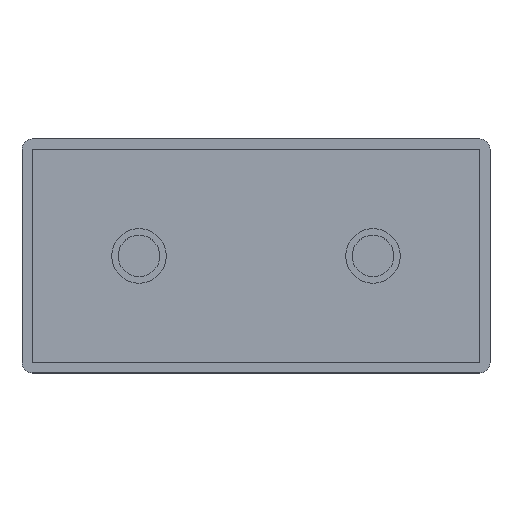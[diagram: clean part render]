
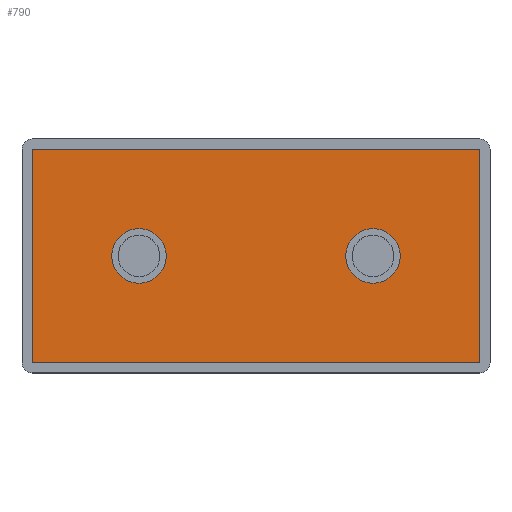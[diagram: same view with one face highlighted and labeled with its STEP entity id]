
A CAD part, top view. The second image highlights one B-rep face of the part: STEP entity #790.
In plain terms, the highlighted planar face has unit normal (0, 0, 1).
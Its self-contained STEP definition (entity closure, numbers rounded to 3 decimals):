
#6 = EDGE_CURVE ( 'NONE', #513, #405, #50, .T. ) ;
#7 = CARTESIAN_POINT ( 'NONE',  ( 43., 0., -0.15 ) ) ;
#11 = EDGE_LOOP ( 'NONE', ( #248, #797 ) ) ;
#14 = CARTESIAN_POINT ( 'NONE',  ( -17.25, 0., -0.15 ) ) ;
#29 = CARTESIAN_POINT ( 'NONE',  ( -22.5, 0., -0.15 ) ) ;
#31 = CARTESIAN_POINT ( 'NONE',  ( -43., 20.5, -0.15 ) ) ;
#40 = EDGE_LOOP ( 'NONE', ( #67, #282, #222, #254 ) ) ;
#50 = LINE ( 'NONE', #957, #145 ) ;
#60 = DIRECTION ( 'NONE',  ( 0., 0., 1. ) ) ;
#67 = ORIENTED_EDGE ( 'NONE', *, *, #103, .T. ) ;
#72 = CARTESIAN_POINT ( 'NONE',  ( -43., -20.5, -0.15 ) ) ;
#74 = VERTEX_POINT ( 'NONE', #72 ) ;
#88 = CARTESIAN_POINT ( 'NONE',  ( -22.5, 0., -0.15 ) ) ;
#102 = LINE ( 'NONE', #7, #262 ) ;
#103 = EDGE_CURVE ( 'NONE', #74, #173, #936, .T. ) ;
#115 = VERTEX_POINT ( 'NONE', #516 ) ;
#145 = VECTOR ( 'NONE', #852, 1000. ) ;
#153 = EDGE_CURVE ( 'NONE', #405, #173, #102, .T. ) ;
#158 = CARTESIAN_POINT ( 'NONE',  ( 22.5, 0., -0.15 ) ) ;
#173 = VERTEX_POINT ( 'NONE', #358 ) ;
#190 = AXIS2_PLACEMENT_3D ( 'NONE', #88, #997, #901 ) ;
#222 = ORIENTED_EDGE ( 'NONE', *, *, #6, .F. ) ;
#248 = ORIENTED_EDGE ( 'NONE', *, *, #329, .F. ) ;
#254 = ORIENTED_EDGE ( 'NONE', *, *, #940, .T. ) ;
#262 = VECTOR ( 'NONE', #914, 1000. ) ;
#272 = AXIS2_PLACEMENT_3D ( 'NONE', #657, #546, #438 ) ;
#282 = ORIENTED_EDGE ( 'NONE', *, *, #153, .F. ) ;
#329 = EDGE_CURVE ( 'NONE', #986, #740, #798, .T. ) ;
#358 = CARTESIAN_POINT ( 'NONE',  ( 43., -20.5, -0.15 ) ) ;
#359 = AXIS2_PLACEMENT_3D ( 'NONE', #693, #584, #476 ) ;
#405 = VERTEX_POINT ( 'NONE', #508 ) ;
#432 = DIRECTION ( 'NONE',  ( 0., -1., 0. ) ) ;
#438 = DIRECTION ( 'NONE',  ( 1., 0., 0. ) ) ;
#440 = FACE_OUTER_BOUND ( 'NONE', #40, .T. ) ;
#471 = ORIENTED_EDGE ( 'NONE', *, *, #708, .F. ) ;
#476 = DIRECTION ( 'NONE',  ( 1., 0., 0. ) ) ;
#497 = FACE_BOUND ( 'NONE', #11, .T. ) ;
#508 = CARTESIAN_POINT ( 'NONE',  ( 43., 20.5, -0.15 ) ) ;
#513 = VERTEX_POINT ( 'NONE', #31 ) ;
#516 = CARTESIAN_POINT ( 'NONE',  ( 27.75, 0., -0.15 ) ) ;
#538 = CARTESIAN_POINT ( 'NONE',  ( -43., 22.5, -0.15 ) ) ;
#546 = DIRECTION ( 'NONE',  ( 0., 0., 1. ) ) ;
#552 = FACE_BOUND ( 'NONE', #696, .T. ) ;
#583 = CIRCLE ( 'NONE', #272, 5.25 ) ;
#584 = DIRECTION ( 'NONE',  ( 0., 0., 1. ) ) ;
#587 = CIRCLE ( 'NONE', #977, 5.25 ) ;
#605 = CARTESIAN_POINT ( 'NONE',  ( 17.25, 0., -0.15 ) ) ;
#617 = EDGE_CURVE ( 'NONE', #115, #771, #583, .T. ) ;
#648 = LINE ( 'NONE', #538, #902 ) ;
#657 = CARTESIAN_POINT ( 'NONE',  ( 22.5, 0., -0.15 ) ) ;
#686 = AXIS2_PLACEMENT_3D ( 'NONE', #158, #60, #969 ) ;
#693 = CARTESIAN_POINT ( 'NONE',  ( 0., 0., -0.15 ) ) ;
#696 = EDGE_LOOP ( 'NONE', ( #471, #1002 ) ) ;
#708 = EDGE_CURVE ( 'NONE', #771, #115, #823, .T. ) ;
#738 = DIRECTION ( 'NONE',  ( 1., 0., 0. ) ) ;
#740 = VERTEX_POINT ( 'NONE', #14 ) ;
#771 = VERTEX_POINT ( 'NONE', #605 ) ;
#790 = ADVANCED_FACE ( 'NONE', ( #440, #497, #552 ), #801, .T. ) ;
#797 = ORIENTED_EDGE ( 'NONE', *, *, #958, .F. ) ;
#798 = CIRCLE ( 'NONE', #190, 5.25 ) ;
#801 = PLANE ( 'NONE',  #359 ) ;
#823 = CIRCLE ( 'NONE', #686, 5.25 ) ;
#832 = DIRECTION ( 'NONE',  ( 1., 0., 0. ) ) ;
#835 = CARTESIAN_POINT ( 'NONE',  ( -45., -20.5, -0.15 ) ) ;
#852 = DIRECTION ( 'NONE',  ( 1., 0., 0. ) ) ;
#890 = VECTOR ( 'NONE', #738, 1000. ) ;
#901 = DIRECTION ( 'NONE',  ( 1., 0., 0. ) ) ;
#902 = VECTOR ( 'NONE', #432, 1000. ) ;
#911 = CARTESIAN_POINT ( 'NONE',  ( -27.75, 0., -0.15 ) ) ;
#914 = DIRECTION ( 'NONE',  ( 0., -1., 0. ) ) ;
#931 = DIRECTION ( 'NONE',  ( 0., 0., 1. ) ) ;
#936 = LINE ( 'NONE', #835, #890 ) ;
#940 = EDGE_CURVE ( 'NONE', #513, #74, #648, .T. ) ;
#957 = CARTESIAN_POINT ( 'NONE',  ( 0., 20.5, -0.15 ) ) ;
#958 = EDGE_CURVE ( 'NONE', #740, #986, #587, .T. ) ;
#969 = DIRECTION ( 'NONE',  ( 1., 0., 0. ) ) ;
#977 = AXIS2_PLACEMENT_3D ( 'NONE', #29, #931, #832 ) ;
#986 = VERTEX_POINT ( 'NONE', #911 ) ;
#997 = DIRECTION ( 'NONE',  ( 0., 0., 1. ) ) ;
#1002 = ORIENTED_EDGE ( 'NONE', *, *, #617, .F. ) ;
